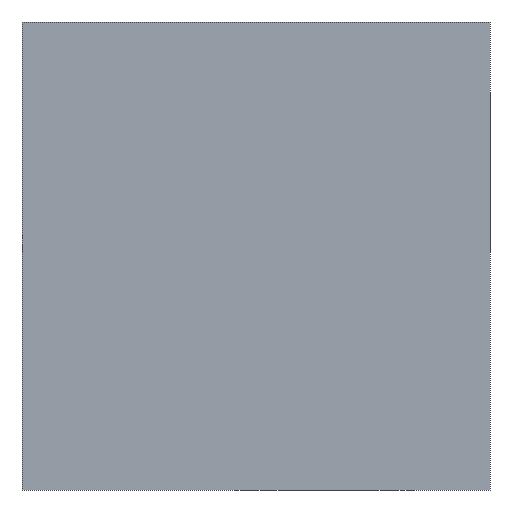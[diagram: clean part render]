
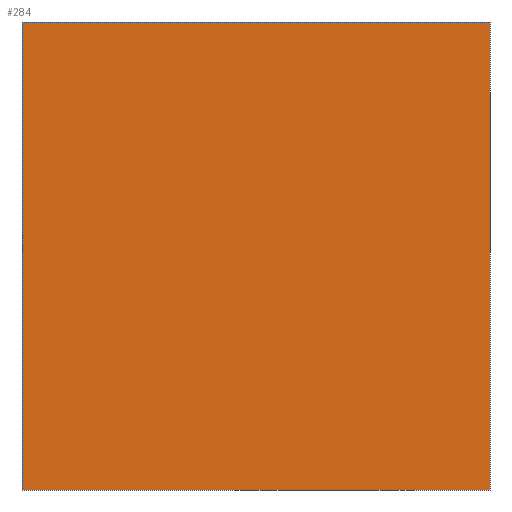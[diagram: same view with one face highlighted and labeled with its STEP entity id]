
A CAD part, front view. The second image highlights one B-rep face of the part: STEP entity #284.
In plain terms, the highlighted planar face has unit normal (0, -1, 0).
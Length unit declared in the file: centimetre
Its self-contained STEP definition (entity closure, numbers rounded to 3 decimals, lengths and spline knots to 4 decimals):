
#24 = CARTESIAN_POINT ( 'NONE',  ( 0., 0., 1000. ) ) ;
#51 = VERTEX_POINT ( 'NONE', #361 ) ;
#60 = PLANE ( 'NONE',  #152 ) ;
#68 = CARTESIAN_POINT ( 'NONE',  ( 0., 0., 1000. ) ) ;
#80 = CARTESIAN_POINT ( 'NONE',  ( 0., 0., 0. ) ) ;
#112 = EDGE_CURVE ( 'NONE', #293, #533, #507, .T. ) ;
#124 = DIRECTION ( 'NONE',  ( 0., 1., 0. ) ) ;
#136 = CARTESIAN_POINT ( 'NONE',  ( 0., 0., 1000. ) ) ;
#152 = AXIS2_PLACEMENT_3D ( 'NONE', #167, #124, #243 ) ;
#160 = DIRECTION ( 'NONE',  ( 1., 0., 0. ) ) ;
#167 = CARTESIAN_POINT ( 'NONE',  ( 0., 0., 1000. ) ) ;
#212 = DIRECTION ( 'NONE',  ( 0., 0., -1. ) ) ;
#243 = DIRECTION ( 'NONE',  ( 0., 0., 1. ) ) ;
#245 = VERTEX_POINT ( 'NONE', #68 ) ;
#253 = ORIENTED_EDGE ( 'NONE', *, *, #112, .T. ) ;
#278 = EDGE_CURVE ( 'NONE', #245, #293, #543, .T. ) ;
#284 = ADVANCED_FACE ( 'NONE', ( #488 ), #60, .F. ) ;
#293 = VERTEX_POINT ( 'NONE', #317 ) ;
#317 = CARTESIAN_POINT ( 'NONE',  ( 0., 0., 0. ) ) ;
#326 = DIRECTION ( 'NONE',  ( 1., 0., 0. ) ) ;
#327 = VECTOR ( 'NONE', #375, 100. ) ;
#336 = EDGE_LOOP ( 'NONE', ( #253, #435, #487, #537 ) ) ;
#361 = CARTESIAN_POINT ( 'NONE',  ( 1000., 0., 1000. ) ) ;
#375 = DIRECTION ( 'NONE',  ( 0., 0., -1. ) ) ;
#380 = CARTESIAN_POINT ( 'NONE',  ( 1000., 0., 1000. ) ) ;
#419 = VECTOR ( 'NONE', #212, 100. ) ;
#424 = VECTOR ( 'NONE', #326, 100. ) ;
#426 = VECTOR ( 'NONE', #160, 100. ) ;
#435 = ORIENTED_EDGE ( 'NONE', *, *, #467, .F. ) ;
#467 = EDGE_CURVE ( 'NONE', #51, #533, #518, .T. ) ;
#487 = ORIENTED_EDGE ( 'NONE', *, *, #502, .F. ) ;
#488 = FACE_OUTER_BOUND ( 'NONE', #336, .T. ) ;
#502 = EDGE_CURVE ( 'NONE', #245, #51, #559, .T. ) ;
#507 = LINE ( 'NONE', #80, #426 ) ;
#518 = LINE ( 'NONE', #380, #327 ) ;
#533 = VERTEX_POINT ( 'NONE', #544 ) ;
#537 = ORIENTED_EDGE ( 'NONE', *, *, #278, .T. ) ;
#543 = LINE ( 'NONE', #24, #419 ) ;
#544 = CARTESIAN_POINT ( 'NONE',  ( 1000., 0., 0. ) ) ;
#559 = LINE ( 'NONE', #136, #424 ) ;
